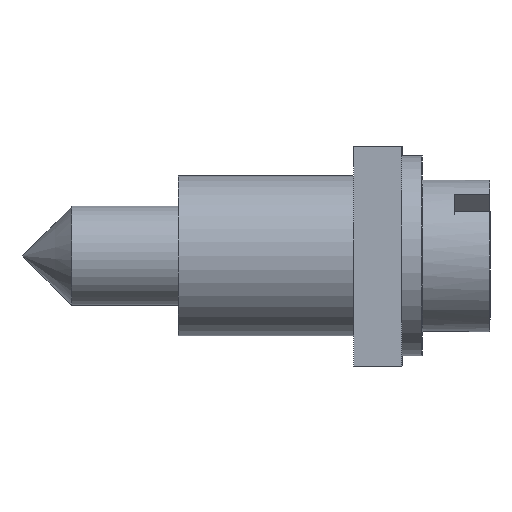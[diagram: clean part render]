
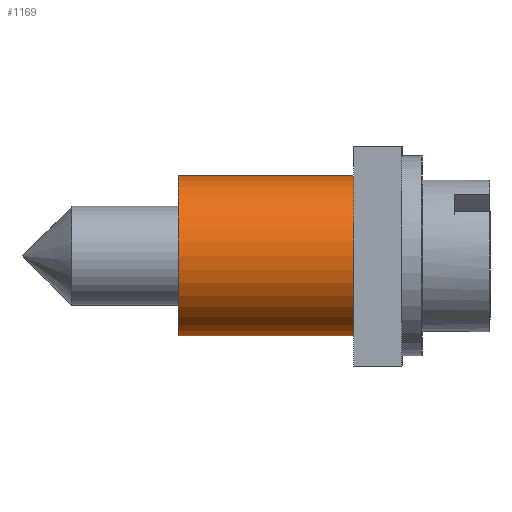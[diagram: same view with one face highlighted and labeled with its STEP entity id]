
A CAD part, left-side view. The second image highlights one B-rep face of the part: STEP entity #1169.
In plain terms, the highlighted cylindrical face has radius 2 mm (diameter 4 mm), a full revolution.
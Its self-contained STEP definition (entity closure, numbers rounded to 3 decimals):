
#1169=ADVANCED_FACE('',(#1781,#1783),#1785,.T.);
#1781=FACE_OUTER_BOUND('',#1782,.T.);
#1782=EDGE_LOOP('',(#2267));
#1783=FACE_OUTER_BOUND('',#1784,.T.);
#1784=EDGE_LOOP('',(#2268));
#1785=CYLINDRICAL_SURFACE('',#1786,2.);
#1786=AXIS2_PLACEMENT_3D('',#1787,#1788,#1789);
#1787=CARTESIAN_POINT('',(0.,0.,4.4));
#1788=DIRECTION('',(0.,0.,-1.));
#1789=DIRECTION('',(-1.,0.,0.));
#2267=ORIENTED_EDGE('',*,*,#2475,.T.);
#2268=ORIENTED_EDGE('',*,*,#2476,.F.);
#2475=EDGE_CURVE('',#2758,#2758,#2759,.T.);
#2476=EDGE_CURVE('',#2760,#2760,#2761,.T.);
#2758=VERTEX_POINT('',#3382);
#2759=CIRCLE('',#3383,2.);
#2760=VERTEX_POINT('',#3387);
#2761=CIRCLE('',#3388,2.);
#3382=CARTESIAN_POINT('',(-2.,0.,4.4));
#3383=AXIS2_PLACEMENT_3D('',#3384,#3385,#3386);
#3384=CARTESIAN_POINT('',(0.,0.,4.4));
#3385=DIRECTION('',(0.,0.,-1.));
#3386=DIRECTION('',(-1.,0.,0.));
#3387=CARTESIAN_POINT('',(-2.,0.,0.));
#3388=AXIS2_PLACEMENT_3D('',#3389,#3390,#3391);
#3389=CARTESIAN_POINT('',(0.,0.,0.));
#3390=DIRECTION('',(0.,0.,-1.));
#3391=DIRECTION('',(-1.,0.,0.));
